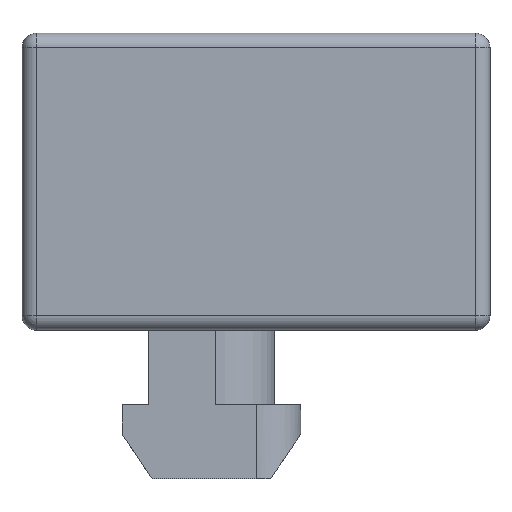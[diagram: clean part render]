
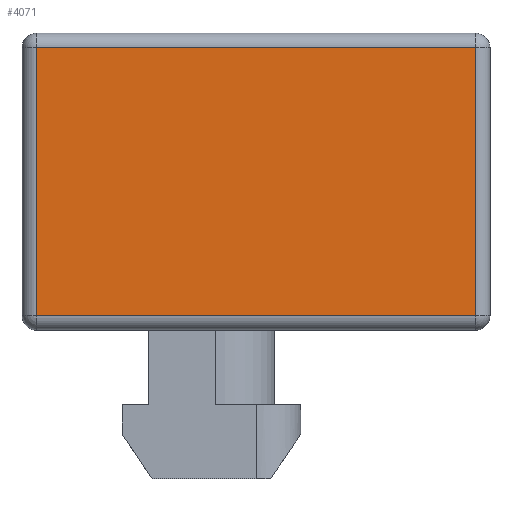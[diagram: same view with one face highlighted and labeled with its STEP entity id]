
A CAD part, front view. The second image highlights one B-rep face of the part: STEP entity #4071.
In plain terms, the highlighted planar face has unit normal (0, -1, 0).
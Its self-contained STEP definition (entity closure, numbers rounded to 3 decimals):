
#82 = DIRECTION ( 'NONE',  ( -1., 0., 0. ) ) ;
#131 = CARTESIAN_POINT ( 'NONE',  ( 30.5, -10., -9. ) ) ;
#308 = VECTOR ( 'NONE', #82, 1000. ) ;
#782 = CARTESIAN_POINT ( 'NONE',  ( 30.5, -10., 0. ) ) ;
#827 = EDGE_CURVE ( 'NONE', #1742, #3564, #6194, .T. ) ;
#1476 = LINE ( 'NONE', #782, #8027 ) ;
#1593 = CARTESIAN_POINT ( 'NONE',  ( 1., -10., -9. ) ) ;
#1742 = VERTEX_POINT ( 'NONE', #7474 ) ;
#1945 = CARTESIAN_POINT ( 'NONE',  ( -0.63, -10., -9. ) ) ;
#2338 = ORIENTED_EDGE ( 'NONE', *, *, #3409, .T. ) ;
#2386 = VECTOR ( 'NONE', #7026, 1000. ) ;
#3409 = EDGE_CURVE ( 'NONE', #6113, #5031, #1476, .T. ) ;
#3417 = CARTESIAN_POINT ( 'NONE',  ( -0.63, -10., 9. ) ) ;
#3564 = VERTEX_POINT ( 'NONE', #1593 ) ;
#3645 = ORIENTED_EDGE ( 'NONE', *, *, #827, .T. ) ;
#3729 = EDGE_LOOP ( 'NONE', ( #2338, #6639, #3645, #5757 ) ) ;
#4071 = ADVANCED_FACE ( 'NONE', ( #6268 ), #4304, .T. ) ;
#4304 = PLANE ( 'NONE',  #7022 ) ;
#4662 = DIRECTION ( 'NONE',  ( 1., 0., 0. ) ) ;
#5031 = VERTEX_POINT ( 'NONE', #5805 ) ;
#5389 = VECTOR ( 'NONE', #4662, 1000. ) ;
#5658 = DIRECTION ( 'NONE',  ( 0., -1., 0. ) ) ;
#5757 = ORIENTED_EDGE ( 'NONE', *, *, #5949, .T. ) ;
#5805 = CARTESIAN_POINT ( 'NONE',  ( 30.5, -10., 9. ) ) ;
#5949 = EDGE_CURVE ( 'NONE', #3564, #6113, #8208, .T. ) ;
#6113 = VERTEX_POINT ( 'NONE', #131 ) ;
#6194 = LINE ( 'NONE', #7756, #2386 ) ;
#6268 = FACE_OUTER_BOUND ( 'NONE', #3729, .T. ) ;
#6423 = EDGE_CURVE ( 'NONE', #5031, #1742, #7028, .T. ) ;
#6639 = ORIENTED_EDGE ( 'NONE', *, *, #6423, .T. ) ;
#7022 = AXIS2_PLACEMENT_3D ( 'NONE', #8458, #5658, #7103 ) ;
#7026 = DIRECTION ( 'NONE',  ( 0., 0., -1. ) ) ;
#7028 = LINE ( 'NONE', #3417, #308 ) ;
#7047 = DIRECTION ( 'NONE',  ( 0., 0., 1. ) ) ;
#7103 = DIRECTION ( 'NONE',  ( 0., 0., -1. ) ) ;
#7474 = CARTESIAN_POINT ( 'NONE',  ( 1., -10., 9. ) ) ;
#7756 = CARTESIAN_POINT ( 'NONE',  ( 1., -10., -10. ) ) ;
#8027 = VECTOR ( 'NONE', #7047, 1000. ) ;
#8208 = LINE ( 'NONE', #1945, #5389 ) ;
#8458 = CARTESIAN_POINT ( 'NONE',  ( -0.63, -10., 0. ) ) ;
